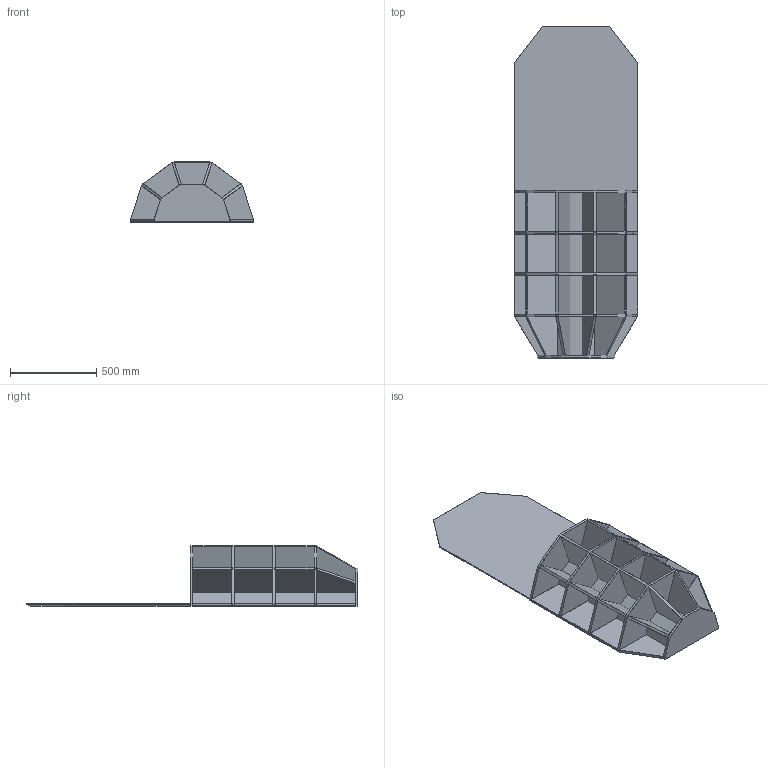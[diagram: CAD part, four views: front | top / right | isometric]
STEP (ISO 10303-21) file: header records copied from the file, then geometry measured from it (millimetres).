
FILE_DESCRIPTION (( 'STEP AP203' ), '1' );
FILE_NAME ('HAKU CONSOLE WITH MIRROR.STEP', '2023-03-21T12:53:11', ( '' ), ( '' ), 'SwSTEP 2.0', 'SolidWorks 2023', '' );
FILE_SCHEMA (( 'CONFIG_CONTROL_DESIGN' ));
Length unit declared in the file: millimetre
Products named in the file (2): HAKU CONSOLE WITH MIRROR; Group1^HAKU CONSOLE WITH MIRROR
Assembly tree (1 placements, depth 2):
  HAKU CONSOLE WITH MIRROR
    Group1^HAKU CONSOLE WITH MIRROR
Bounding box: 715.38 x 1930 x 350 mm (x, y, z)
Volume: 44369712.7 mm3; surface area: 7863354.4 mm2
Topology: 32 solids, 32 shells, 680 faces, 1758 edges, 1144 vertices
Faces by surface type: plane 636, cylinder 44
Entity records: 20394 total; most frequent: CARTESIAN_POINT 3586, ORIENTED_EDGE 3516, DIRECTION 3216, EDGE_CURVE 1758, VECTOR 1668, LINE 1668, VERTEX_POINT 1144, AXIS2_PLACEMENT_3D 774
